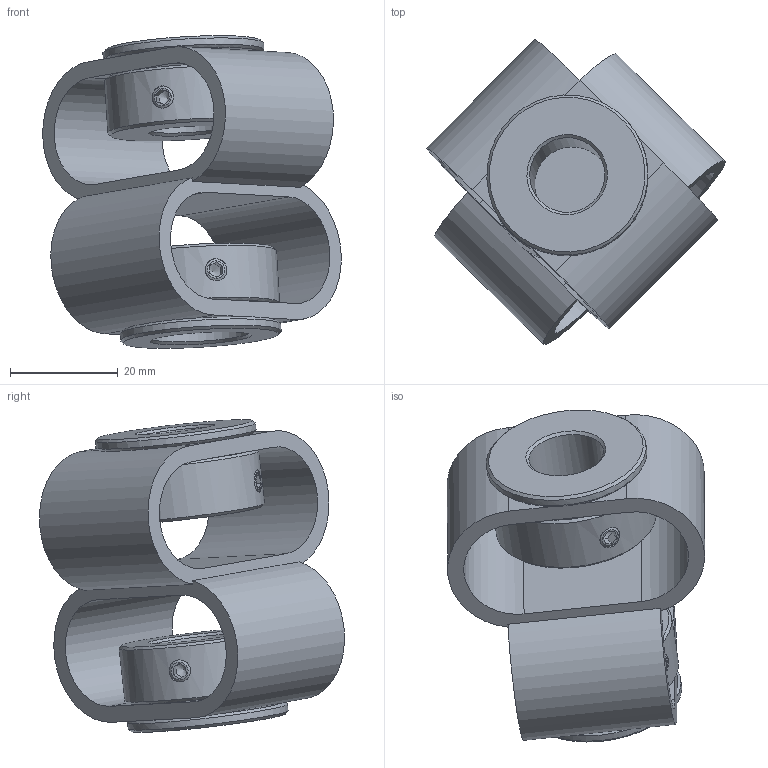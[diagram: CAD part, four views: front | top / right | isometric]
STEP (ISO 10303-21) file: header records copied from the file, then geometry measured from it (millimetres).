
FILE_DESCRIPTION(/* description */ (''),/* implementation_level */ '2;1');
FILE_NAME(/* name */ 'E:\ABP_bauteile\Doppelschlaufenkupplung\DKPS_5658\Doppelschlaufenkupplung_DKPS_5658_14_18.stp',/* time_stamp */ '2015-03-13T11:49:01+01:00',/* author */ ('Rob'),/* organization */ (''),/* preprocessor_version */ 'ST-DEVELOPER v15.6',/* originating_system */ 'Autodesk Inventor 2015',/* authorisation */ '');
FILE_SCHEMA (('CONFIG_CONTROL_DESIGN'));
Length unit declared in the file: millimetre
Products named in the file (1): Bauteil52
Bounding box: 55.53 x 56.74 x 58.16 mm (x, y, z)
Volume: 30083.5 mm3; surface area: 18070.9 mm2
Topology: 1 solids, 1 shells, 142 faces, 360 edges, 218 vertices
Faces by surface type: plane 84, cone 30, cylinder 28
Full cylindrical faces by diameter (mm): 4.134 x8, 14 x1, 18 x1, 21.5 x2, 23 x4, 30 x4
Entity records: 4088 total; most frequent: CARTESIAN_POINT 1027, DIRECTION 646, ORIENTED_EDGE 556, EDGE_CURVE 278, AXIS2_PLACEMENT_3D 257, EDGE_LOOP 210, VERTEX_POINT 182, FACE_OUTER_BOUND 142
